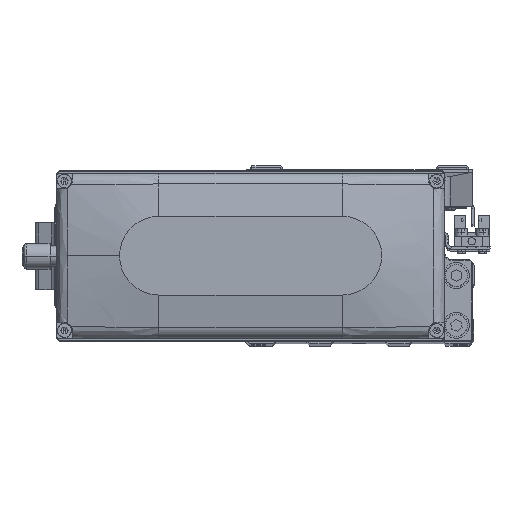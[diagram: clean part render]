
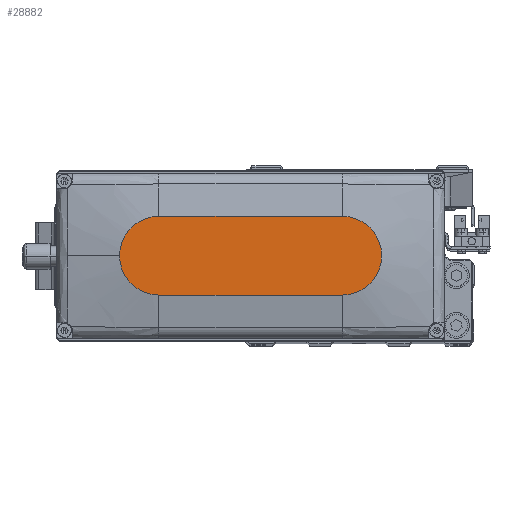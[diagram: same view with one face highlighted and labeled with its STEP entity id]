
A CAD part, top view. The second image highlights one B-rep face of the part: STEP entity #28882.
In plain terms, the highlighted planar face has unit normal (0, 0, 1).
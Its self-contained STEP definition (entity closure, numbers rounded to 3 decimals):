
#681 = CARTESIAN_POINT ( 'NONE',  ( -35., -15., 35. ) ) ;
#1548 = CARTESIAN_POINT ( 'NONE',  ( 35., 0., 35. ) ) ;
#2058 = FACE_OUTER_BOUND ( 'NONE', #9507, .T. ) ;
#3812 = CIRCLE ( 'NONE', #30578, 15. ) ;
#5112 = VERTEX_POINT ( 'NONE', #6140 ) ;
#5270 = CARTESIAN_POINT ( 'NONE',  ( -35., -15., 35. ) ) ;
#6140 = CARTESIAN_POINT ( 'NONE',  ( 50., 0., 35. ) ) ;
#6176 = ORIENTED_EDGE ( 'NONE', *, *, #7933, .T. ) ;
#6350 = AXIS2_PLACEMENT_3D ( 'NONE', #13752, #28338, #42980 ) ;
#7020 = LINE ( 'NONE', #32650, #11565 ) ;
#7174 = CARTESIAN_POINT ( 'NONE',  ( 35., 0., 35. ) ) ;
#7448 = EDGE_CURVE ( 'NONE', #45106, #35270, #38106, .T. ) ;
#7933 = EDGE_CURVE ( 'NONE', #41260, #45106, #26983, .T. ) ;
#8615 = AXIS2_PLACEMENT_3D ( 'NONE', #7174, #21772, #36386 ) ;
#9507 = EDGE_LOOP ( 'NONE', ( #36347, #6176, #14806, #46663, #34716 ) ) ;
#11565 = VECTOR ( 'NONE', #47270, 1000. ) ;
#13065 = DIRECTION ( 'NONE',  ( 1., 0., 0. ) ) ;
#13618 = VERTEX_POINT ( 'NONE', #43772 ) ;
#13752 = CARTESIAN_POINT ( 'NONE',  ( -35., 0., 35. ) ) ;
#13989 = EDGE_CURVE ( 'NONE', #13618, #41260, #7020, .T. ) ;
#14806 = ORIENTED_EDGE ( 'NONE', *, *, #7448, .T. ) ;
#16177 = DIRECTION ( 'NONE',  ( 0., 0., 1. ) ) ;
#16682 = PLANE ( 'NONE',  #33921 ) ;
#16757 = EDGE_CURVE ( 'NONE', #5112, #13618, #29226, .T. ) ;
#19870 = DIRECTION ( 'NONE',  ( 1., 0., 0. ) ) ;
#21772 = DIRECTION ( 'NONE',  ( 0., 0., 1. ) ) ;
#26983 = CIRCLE ( 'NONE', #6350, 15. ) ;
#28338 = DIRECTION ( 'NONE',  ( 0., 0., 1. ) ) ;
#28882 = ADVANCED_FACE ( 'NONE', ( #2058 ), #16682, .T. ) ;
#29226 = CIRCLE ( 'NONE', #8615, 15. ) ;
#30578 = AXIS2_PLACEMENT_3D ( 'NONE', #1548, #16177, #30768 ) ;
#30768 = DIRECTION ( 'NONE',  ( 1., 0., 0. ) ) ;
#31272 = CARTESIAN_POINT ( 'NONE',  ( 0., 0., 35. ) ) ;
#32066 = VECTOR ( 'NONE', #19870, 1000. ) ;
#32650 = CARTESIAN_POINT ( 'NONE',  ( -35., 15., 35. ) ) ;
#33921 = AXIS2_PLACEMENT_3D ( 'NONE', #31272, #45884, #13065 ) ;
#34716 = ORIENTED_EDGE ( 'NONE', *, *, #16757, .T. ) ;
#35270 = VERTEX_POINT ( 'NONE', #44745 ) ;
#35703 = CARTESIAN_POINT ( 'NONE',  ( -35., 15., 35. ) ) ;
#36347 = ORIENTED_EDGE ( 'NONE', *, *, #13989, .T. ) ;
#36386 = DIRECTION ( 'NONE',  ( 1., 0., 0. ) ) ;
#37088 = EDGE_CURVE ( 'NONE', #35270, #5112, #3812, .T. ) ;
#38106 = LINE ( 'NONE', #5270, #32066 ) ;
#41260 = VERTEX_POINT ( 'NONE', #35703 ) ;
#42980 = DIRECTION ( 'NONE',  ( 1., 0., 0. ) ) ;
#43772 = CARTESIAN_POINT ( 'NONE',  ( 35., 15., 35. ) ) ;
#44745 = CARTESIAN_POINT ( 'NONE',  ( 35., -15., 35. ) ) ;
#45106 = VERTEX_POINT ( 'NONE', #681 ) ;
#45884 = DIRECTION ( 'NONE',  ( 0., 0., 1. ) ) ;
#46663 = ORIENTED_EDGE ( 'NONE', *, *, #37088, .T. ) ;
#47270 = DIRECTION ( 'NONE',  ( -1., 0., 0. ) ) ;
